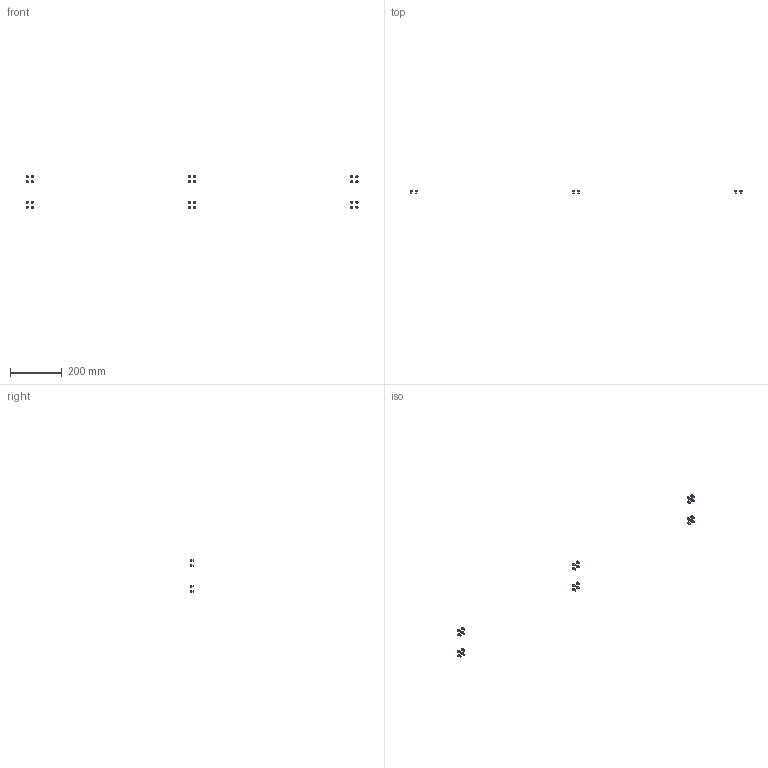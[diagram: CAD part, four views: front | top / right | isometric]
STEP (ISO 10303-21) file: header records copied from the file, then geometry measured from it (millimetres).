
FILE_DESCRIPTION(/* description */ (''),/* implementation_level */ '2;1');
FILE_NAME(/* name */ 'FRD6F7~1',/* time_stamp */ '2014-02-14T19:33:12+01:00',/* author */ (''),/* organization */ (''),/* preprocessor_version */ 'ST-DEVELOPER v14',/* originating_system */ '',/* authorisation */ '');
FILE_SCHEMA (('AUTOMOTIVE_DESIGN'));
Length unit declared in the file: millimetre
Products named in the file (2): Document; screw DIN912-like, M5x08
Assembly tree (12 placements, depth 2):
  Document
    screw DIN912-like, M5x08  x12
Bounding box: 1288.48 x 13 x 128.5 mm (x, y, z)
Volume: 9577.3 mm3; surface area: 9476.9 mm2
Topology: 24 solids, 24 shells, 600 faces, 1344 edges, 792 vertices
Faces by surface type: plane 360, bspline 240
Entity records: 17765 total; most frequent: CARTESIAN_POINT 8179, B_SPLINE_CURVE_WITH_KNOTS 1638, ORIENTED_EDGE 1404, PCURVE 1404, DEFINITIONAL_REPRESENTATION 1404, SURFACE_CURVE 702, EDGE_CURVE 702, VERTEX_POINT 429
